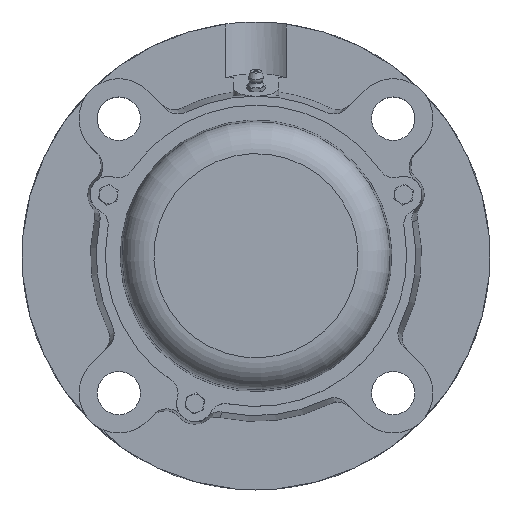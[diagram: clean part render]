
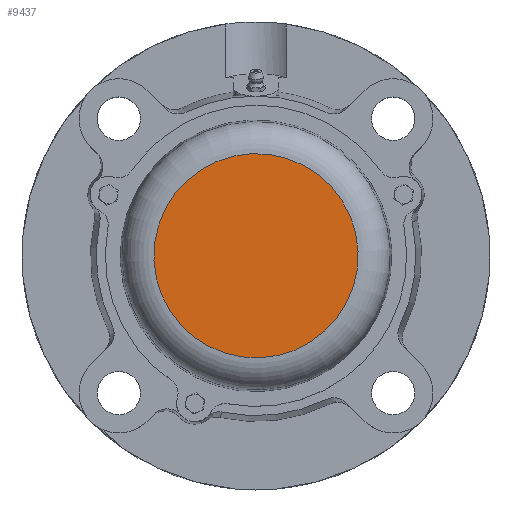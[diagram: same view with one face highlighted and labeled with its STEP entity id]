
A CAD part, top view. The second image highlights one B-rep face of the part: STEP entity #9437.
In plain terms, the highlighted planar face has unit normal (0, 0, 1).
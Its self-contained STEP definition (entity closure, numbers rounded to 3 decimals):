
#9406=CARTESIAN_POINT('',(-44.73,0.0,34.0));
#9407=VERTEX_POINT('',#9406);
#9408=CARTESIAN_POINT('',(0.0,0.0,34.0));
#9409=DIRECTION('',(0.0,0.0,-1.0));
#9410=DIRECTION('',(1.0,0.0,0.0));
#9411=AXIS2_PLACEMENT_3D('',#9408,#9409,#9410);
#9412=CIRCLE('',#9411,44.73);
#9413=EDGE_CURVE('',#9407,#9407,#9412,.T.);
#9429=CARTESIAN_POINT('',(0.0,0.0,34.0));
#9430=DIRECTION('',(0.0,0.0,-1.0));
#9431=DIRECTION('',(-1.0,0.0,0.0));
#9432=AXIS2_PLACEMENT_3D('',#9429,#9430,#9431);
#9433=PLANE('',#9432);
#9434=ORIENTED_EDGE('',*,*,#9413,.F.);
#9435=EDGE_LOOP('',(#9434));
#9436=FACE_OUTER_BOUND('',#9435,.T.);
#9437=ADVANCED_FACE('',(#9436),#9433,.F.);
